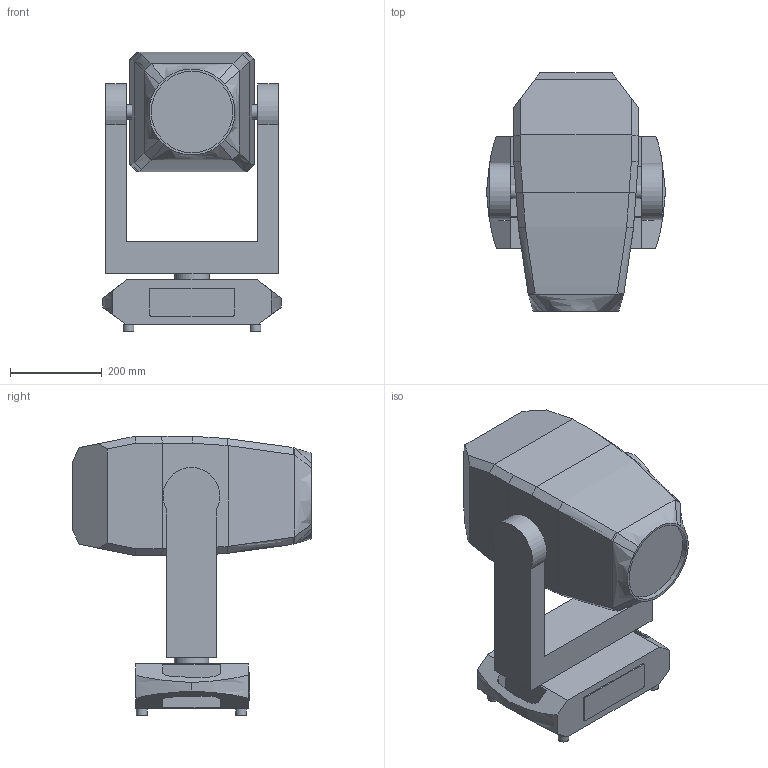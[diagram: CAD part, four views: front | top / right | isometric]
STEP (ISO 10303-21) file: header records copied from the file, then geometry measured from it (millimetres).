
FILE_DESCRIPTION(/* description */ (''),/* implementation_level */ '2;1');
FILE_NAME(/* name */ 'MAVERICK STORM 1 FLEX_90.stp',/* time_stamp */ '2024-12-27T16:14:19-05:00',/* author */ ('chenry'),/* organization */ (''),/* preprocessor_version */ 'ST-DEVELOPER v20',/* originating_system */ 'Autodesk Inventor 2024',/* authorisation */ '');
FILE_SCHEMA (('AUTOMOTIVE_DESIGN { 1 0 10303 214 3 1 1 }'));
Length unit declared in the file: millimetre
Products named in the file (4): MIP-520_LED_HYBRID_1_ASM; BASE; Arm; Head
Assembly tree (3 placements, depth 2):
  MIP-520_LED_HYBRID_1_ASM
    BASE
    Arm
    Head
Bounding box: 388.81 x 518.3 x 607.55 mm (x, y, z)
Volume: 44610672.1 mm3; surface area: 1232945.7 mm2
Topology: 3 solids, 3 shells, 119 faces, 290 edges, 184 vertices
Faces by surface type: plane 69, bspline 34, cylinder 16
Full cylindrical faces by diameter (mm): 23.335 x4, 30.951 x3, 74.8 x2, 176.785 x1
Entity records: 27351 total; most frequent: CARTESIAN_POINT 24567, ORIENTED_EDGE 580, DIRECTION 457, EDGE_CURVE 290, LINE 193, VECTOR 193, VERTEX_POINT 184, AXIS2_PLACEMENT_3D 132
